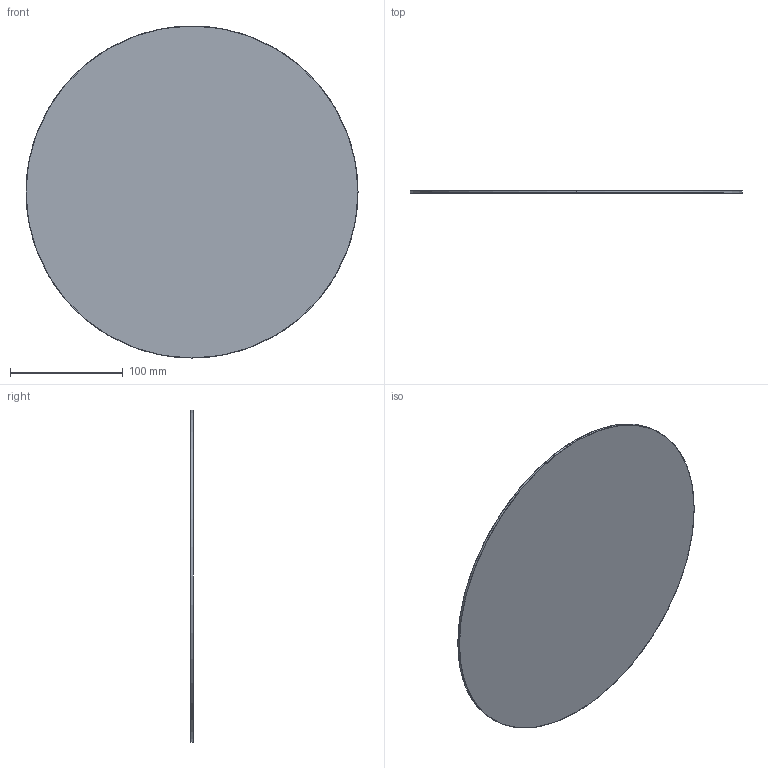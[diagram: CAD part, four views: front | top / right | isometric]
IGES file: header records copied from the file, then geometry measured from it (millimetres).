
Start section: SolidWorks IGES file using analytic representation for surfaces
Global section: file name: C:\Users\danielet\Desktop\3D CARLOS\ISIA-DIF34536-3D\ISIA-DIF34536-3D.IGS; native system: SolidWorks 2018; preprocessor: SolidWorks 2018; author: danielet; date: 211122.130757; units: millimetre
Bounding box: 294 x 2 x 294 mm (x, y, z)
Surface area: 137620.7 mm2 (no closed solid volume)
Topology: 0 solids, 0 shells, 4 faces, 136 edges, 136 vertices
Faces by surface type: revolution 2, bspline 2
